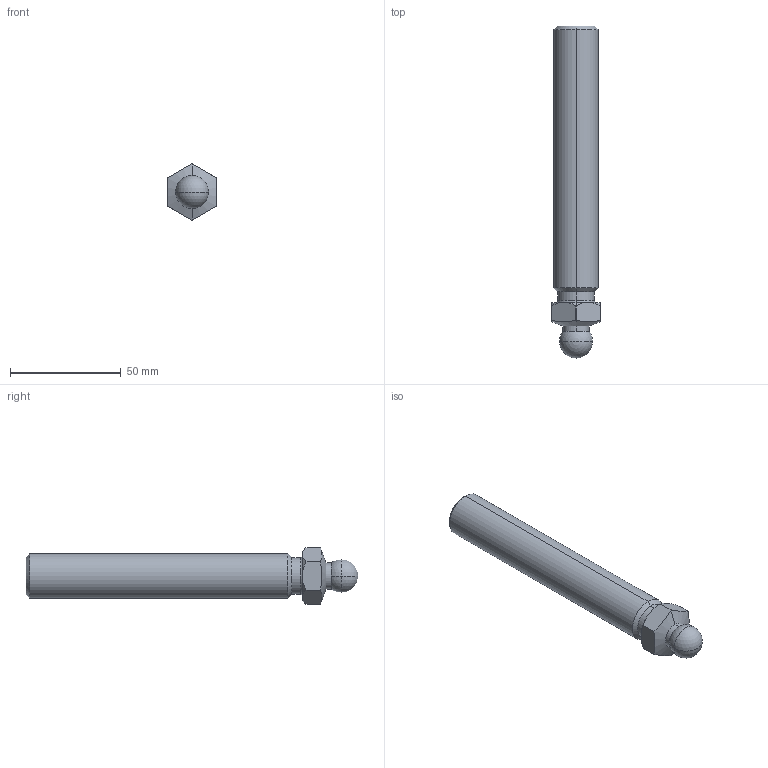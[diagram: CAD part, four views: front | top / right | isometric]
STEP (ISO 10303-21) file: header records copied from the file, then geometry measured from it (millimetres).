
FILE_DESCRIPTION(('STEP AP214'),'1');
FILE_NAME('fath_098dm20125m.stp','2017-09-25T11:47:33',('TraceParts'),('TraceParts S.A.'),'Spatial InterOp 3D',' ',' ');
FILE_SCHEMA(('automotive_design'));
Length unit declared in the file: millimetre
Products named in the file (1): fath_098dm20125m
Bounding box: 22 x 150 x 25.4 mm (x, y, z)
Volume: 44557.7 mm3; surface area: 9872.9 mm2
Topology: 1 solids, 1 shells, 42 faces, 108 edges, 65 vertices
Faces by surface type: cone 14, cylinder 14, plane 8, sphere 4, torus 2
Entity records: 1711 total; most frequent: CARTESIAN_POINT 342, DIRECTION 224, ORIENTED_EDGE 208, EDGE_CURVE 104, AXIS2_PLACEMENT_3D 95, VERTEX_POINT 65, CIRCLE 52, STYLED_ITEM 43
